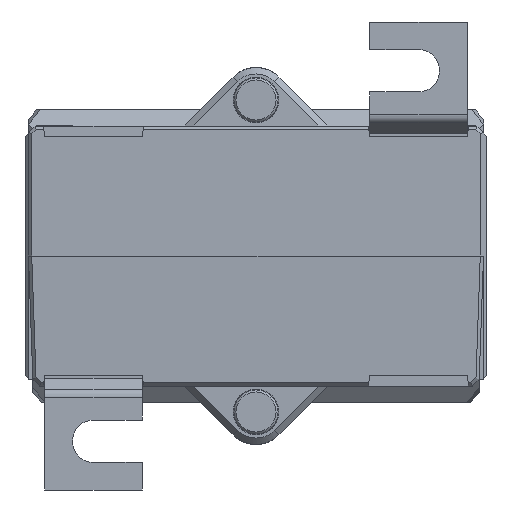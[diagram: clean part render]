
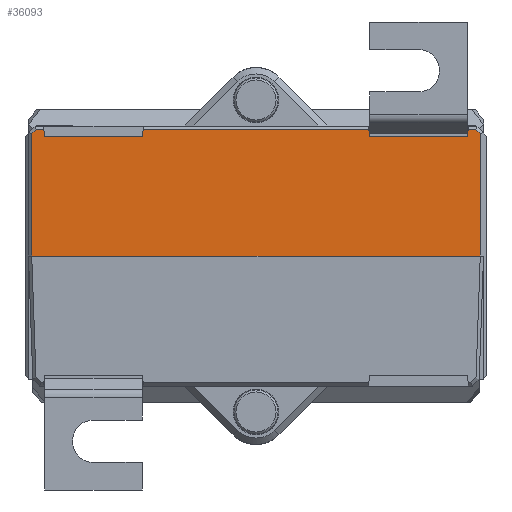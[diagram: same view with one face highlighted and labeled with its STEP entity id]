
A CAD part, front view. The second image highlights one B-rep face of the part: STEP entity #36093.
In plain terms, the highlighted planar face has unit normal (0, -1, 0).
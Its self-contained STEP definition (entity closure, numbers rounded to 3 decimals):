
#1332=PLANE('',#38270);
#3253=FACE_OUTER_BOUND('',#5297,.T.);
#5297=EDGE_LOOP('',(#29428,#29429,#29430,#29431,#29432,#29433,#29434,#29435,
#29436,#29437,#29438,#29439,#29440,#29441,#29442,#29443));
#8037=LINE('',#52772,#11780);
#9205=LINE('',#64731,#12948);
#9483=LINE('',#67034,#13226);
#9865=LINE('',#69595,#13608);
#9866=LINE('',#69597,#13609);
#9867=LINE('',#69599,#13610);
#9868=LINE('',#69601,#13611);
#9869=LINE('',#69603,#13612);
#9870=LINE('',#69604,#13613);
#9871=LINE('',#69606,#13614);
#9872=LINE('',#69608,#13615);
#9873=LINE('',#69610,#13616);
#9874=LINE('',#69612,#13617);
#9875=LINE('',#69614,#13618);
#9876=LINE('',#69616,#13619);
#9877=LINE('',#69617,#13620);
#11780=VECTOR('',#40400,1000.);
#12948=VECTOR('',#42926,1000.);
#13226=VECTOR('',#43688,1000.);
#13608=VECTOR('',#44244,1000.);
#13609=VECTOR('',#44245,1000.);
#13610=VECTOR('',#44246,1000.);
#13611=VECTOR('',#44247,1000.);
#13612=VECTOR('',#44248,1000.);
#13613=VECTOR('',#44249,1000.);
#13614=VECTOR('',#44250,1000.);
#13615=VECTOR('',#44251,1000.);
#13616=VECTOR('',#44252,1000.);
#13617=VECTOR('',#44253,1000.);
#13618=VECTOR('',#44254,1000.);
#13619=VECTOR('',#44255,1000.);
#13620=VECTOR('',#44256,1000.);
#15659=VERTEX_POINT('',#52769);
#15660=VERTEX_POINT('',#52771);
#16486=VERTEX_POINT('',#64730);
#16701=VERTEX_POINT('',#67032);
#17200=VERTEX_POINT('',#69593);
#17201=VERTEX_POINT('',#69594);
#17202=VERTEX_POINT('',#69596);
#17203=VERTEX_POINT('',#69598);
#17204=VERTEX_POINT('',#69600);
#17205=VERTEX_POINT('',#69602);
#17206=VERTEX_POINT('',#69605);
#17207=VERTEX_POINT('',#69607);
#17208=VERTEX_POINT('',#69609);
#17209=VERTEX_POINT('',#69611);
#17210=VERTEX_POINT('',#69613);
#17211=VERTEX_POINT('',#69615);
#19114=EDGE_CURVE('',#15660,#15659,#8037,.T.);
#20603=EDGE_CURVE('',#16486,#15660,#9205,.T.);
#20986=EDGE_CURVE('',#15659,#16701,#9483,.T.);
#21522=EDGE_CURVE('',#17200,#17201,#9865,.T.);
#21523=EDGE_CURVE('',#17202,#17200,#9866,.T.);
#21524=EDGE_CURVE('',#17203,#17202,#9867,.T.);
#21525=EDGE_CURVE('',#17203,#17204,#9868,.T.);
#21526=EDGE_CURVE('',#17204,#17205,#9869,.T.);
#21527=EDGE_CURVE('',#17205,#16486,#9870,.T.);
#21528=EDGE_CURVE('',#16701,#17206,#9871,.T.);
#21529=EDGE_CURVE('',#17206,#17207,#9872,.T.);
#21530=EDGE_CURVE('',#17207,#17208,#9873,.T.);
#21531=EDGE_CURVE('',#17209,#17208,#9874,.T.);
#21532=EDGE_CURVE('',#17209,#17210,#9875,.T.);
#21533=EDGE_CURVE('',#17211,#17210,#9876,.T.);
#21534=EDGE_CURVE('',#17211,#17201,#9877,.T.);
#29428=ORIENTED_EDGE('',*,*,#21522,.F.);
#29429=ORIENTED_EDGE('',*,*,#21523,.F.);
#29430=ORIENTED_EDGE('',*,*,#21524,.F.);
#29431=ORIENTED_EDGE('',*,*,#21525,.T.);
#29432=ORIENTED_EDGE('',*,*,#21526,.T.);
#29433=ORIENTED_EDGE('',*,*,#21527,.T.);
#29434=ORIENTED_EDGE('',*,*,#20603,.T.);
#29435=ORIENTED_EDGE('',*,*,#19114,.T.);
#29436=ORIENTED_EDGE('',*,*,#20986,.T.);
#29437=ORIENTED_EDGE('',*,*,#21528,.T.);
#29438=ORIENTED_EDGE('',*,*,#21529,.T.);
#29439=ORIENTED_EDGE('',*,*,#21530,.T.);
#29440=ORIENTED_EDGE('',*,*,#21531,.F.);
#29441=ORIENTED_EDGE('',*,*,#21532,.T.);
#29442=ORIENTED_EDGE('',*,*,#21533,.F.);
#29443=ORIENTED_EDGE('',*,*,#21534,.T.);
#36093=ADVANCED_FACE('',(#3253),#1332,.F.);
#38270=AXIS2_PLACEMENT_3D('',#69592,#44242,#44243);
#40400=DIRECTION('',(1.,0.,0.));
#42926=DIRECTION('',(1.,0.,0.));
#43688=DIRECTION('',(1.,0.,0.));
#44242=DIRECTION('center_axis',(0.,1.,0.));
#44243=DIRECTION('ref_axis',(-1.,0.,0.));
#44244=DIRECTION('',(0.009,0.,1.));
#44245=DIRECTION('',(1.,0.,0.));
#44246=DIRECTION('',(0.009,0.,-1.));
#44247=DIRECTION('',(-1.,0.,0.));
#44248=DIRECTION('',(-0.707,0.,-0.707));
#44249=DIRECTION('',(0.,0.,-1.));
#44250=DIRECTION('',(0.,0.,1.));
#44251=DIRECTION('',(-0.707,0.,0.707));
#44252=DIRECTION('',(-1.,0.,0.));
#44253=DIRECTION('',(0.009,0.,1.));
#44254=DIRECTION('',(-1.,0.,0.));
#44255=DIRECTION('',(0.009,0.,-1.));
#44256=DIRECTION('',(-1.,0.,0.));
#52769=CARTESIAN_POINT('',(34.499,-36.75,0.));
#52771=CARTESIAN_POINT('',(-34.5,-36.75,0.));
#52772=CARTESIAN_POINT('',(-35.,-36.75,0.));
#64730=CARTESIAN_POINT('',(-34.5,-36.75,0.));
#64731=CARTESIAN_POINT('',(-35.,-36.75,0.));
#67032=CARTESIAN_POINT('',(34.5,-36.75,0.));
#67034=CARTESIAN_POINT('',(-35.,-36.75,0.));
#69592=CARTESIAN_POINT('Origin',(-35.,-36.75,20.));
#69593=CARTESIAN_POINT('',(-17.392,-36.75,18.4));
#69594=CARTESIAN_POINT('',(-17.382,-36.75,19.5));
#69595=CARTESIAN_POINT('',(-17.379,-36.75,19.846));
#69596=CARTESIAN_POINT('',(-32.608,-36.75,18.4));
#69597=CARTESIAN_POINT('',(-35.,-36.75,18.4));
#69598=CARTESIAN_POINT('',(-32.618,-36.75,19.5));
#69599=CARTESIAN_POINT('',(-32.622,-36.75,20.021));
#69600=CARTESIAN_POINT('',(-33.793,-36.75,19.5));
#69601=CARTESIAN_POINT('',(-34.,-36.75,19.5));
#69602=CARTESIAN_POINT('',(-34.5,-36.75,18.793));
#69603=CARTESIAN_POINT('',(-34.646,-36.75,18.646));
#69604=CARTESIAN_POINT('',(-34.5,-36.75,20.));
#69605=CARTESIAN_POINT('',(34.5,-36.75,18.793));
#69606=CARTESIAN_POINT('',(34.5,-36.75,20.));
#69607=CARTESIAN_POINT('',(33.793,-36.75,19.5));
#69608=CARTESIAN_POINT('',(33.646,-36.75,19.646));
#69609=CARTESIAN_POINT('',(32.618,-36.75,19.5));
#69610=CARTESIAN_POINT('',(-34.,-36.75,19.5));
#69611=CARTESIAN_POINT('',(32.608,-36.75,18.4));
#69612=CARTESIAN_POINT('',(32.617,-36.75,19.41));
#69613=CARTESIAN_POINT('',(17.392,-36.75,18.4));
#69614=CARTESIAN_POINT('',(-35.,-36.75,18.4));
#69615=CARTESIAN_POINT('',(17.382,-36.75,19.5));
#69616=CARTESIAN_POINT('',(17.374,-36.75,20.457));
#69617=CARTESIAN_POINT('',(-34.,-36.75,19.5));
